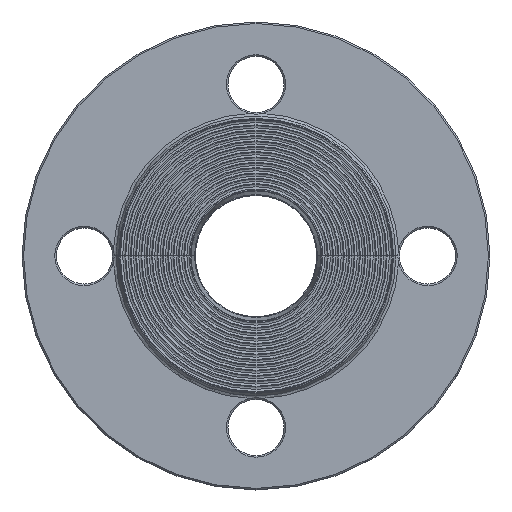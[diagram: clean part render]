
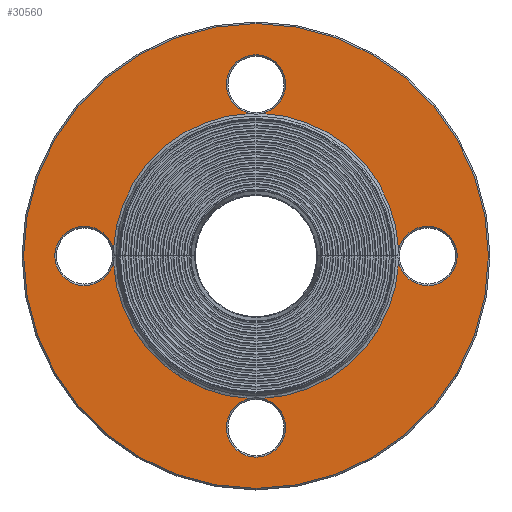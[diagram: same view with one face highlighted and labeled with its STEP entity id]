
A CAD part, top view. The second image highlights one B-rep face of the part: STEP entity #30560.
In plain terms, the highlighted planar face has unit normal (0, 0, 1).
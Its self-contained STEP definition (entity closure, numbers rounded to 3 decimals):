
#28220=CARTESIAN_POINT('',(119.5,165.,16.));
#28230=VERTEX_POINT('',#28220);
#28260=CARTESIAN_POINT('',(110.,165.,16.));
#28270=DIRECTION('',(0.,0.,1.));
#28280=DIRECTION('',(1.,0.,0.));
#28290=AXIS2_PLACEMENT_3D('',#28260,#28270,#28280);
#28300=CIRCLE('',#28290,9.5);
#28310=CARTESIAN_POINT('',(111.903,155.692,16.));
#28320=VERTEX_POINT('',#28310);
#28330=EDGE_CURVE('',#28320,#28230,#28300,.T.);
#29030=CARTESIAN_POINT('',(108.097,155.692,16.));
#29040=VERTEX_POINT('',#29030);
#29070=CARTESIAN_POINT('',(100.5,165.,16.));
#29080=VERTEX_POINT('',#29070);
#29090=EDGE_CURVE('',#29080,#29040,#28300,.T.);
#29240=EDGE_CURVE('',#28230,#29080,#28300,.T.);
#29690=CARTESIAN_POINT('',(190.069,110.,16.));
#29700=DIRECTION('',(-0.,0.,1.));
#29710=DIRECTION('',(1.,0.,0.));
#29720=AXIS2_PLACEMENT_3D('',#29690,#29700,#29710);
#29730=PLANE('',#29720);
#29740=CARTESIAN_POINT('',(110.,55.,16.));
#29750=DIRECTION('',(0.,0.,1.));
#29760=DIRECTION('',(1.,0.,0.));
#29770=AXIS2_PLACEMENT_3D('',#29740,#29750,#29760);
#29780=CIRCLE('',#29770,9.5);
#29790=CARTESIAN_POINT('',(108.097,64.308,16.));
#29800=VERTEX_POINT('',#29790);
#29810=CARTESIAN_POINT('',(100.5,55.,16.));
#29820=VERTEX_POINT('',#29810);
#29830=EDGE_CURVE('',#29800,#29820,#29780,.T.);
#29840=ORIENTED_EDGE('',*,*,#29830,.F.);
#29850=CARTESIAN_POINT('',(119.5,55.,16.));
#29860=VERTEX_POINT('',#29850);
#29870=EDGE_CURVE('',#29820,#29860,#29780,.T.);
#29880=ORIENTED_EDGE('',*,*,#29870,.F.);
#29890=CARTESIAN_POINT('',(111.903,64.308,16.));
#29900=VERTEX_POINT('',#29890);
#29910=EDGE_CURVE('',#29860,#29900,#29780,.T.);
#29920=ORIENTED_EDGE('',*,*,#29910,.F.);
#29930=CARTESIAN_POINT('',(110.,110.,16.));
#29940=DIRECTION('',(0.,0.,-1.));
#29950=DIRECTION('',(-1.,0.,0.));
#29960=AXIS2_PLACEMENT_3D('',#29930,#29940,#29950);
#29970=CIRCLE('',#29960,45.732);
#29980=CARTESIAN_POINT('',(155.692,108.097,16.));
#29990=VERTEX_POINT('',#29980);
#30000=EDGE_CURVE('',#29990,#29900,#29970,.T.);
#30010=ORIENTED_EDGE('',*,*,#30000,.T.);
#30020=CARTESIAN_POINT('',(165.,110.,16.));
#30030=DIRECTION('',(0.,0.,1.));
#30040=DIRECTION('',(1.,0.,0.));
#30050=AXIS2_PLACEMENT_3D('',#30020,#30030,#30040);
#30060=CIRCLE('',#30050,9.5);
#30070=CARTESIAN_POINT('',(174.5,110.,16.));
#30080=VERTEX_POINT('',#30070);
#30090=EDGE_CURVE('',#29990,#30080,#30060,.T.);
#30100=ORIENTED_EDGE('',*,*,#30090,.F.);
#30110=CARTESIAN_POINT('',(155.692,111.903,16.));
#30120=VERTEX_POINT('',#30110);
#30130=EDGE_CURVE('',#30080,#30120,#30060,.T.);
#30140=ORIENTED_EDGE('',*,*,#30130,.F.);
#30150=EDGE_CURVE('',#28320,#30120,#29970,.T.);
#30160=ORIENTED_EDGE('',*,*,#30150,.T.);
#30170=ORIENTED_EDGE('',*,*,#28330,.F.);
#30180=ORIENTED_EDGE('',*,*,#29240,.F.);
#30190=ORIENTED_EDGE('',*,*,#29090,.F.);
#30200=CARTESIAN_POINT('',(64.308,111.903,16.));
#30210=VERTEX_POINT('',#30200);
#30220=EDGE_CURVE('',#30210,#29040,#29970,.T.);
#30230=ORIENTED_EDGE('',*,*,#30220,.T.);
#30240=CARTESIAN_POINT('',(55.,110.,16.));
#30250=DIRECTION('',(0.,0.,1.));
#30260=DIRECTION('',(1.,0.,0.));
#30270=AXIS2_PLACEMENT_3D('',#30240,#30250,#30260);
#30280=CIRCLE('',#30270,9.5);
#30290=CARTESIAN_POINT('',(45.5,110.,16.));
#30300=VERTEX_POINT('',#30290);
#30310=EDGE_CURVE('',#30210,#30300,#30280,.T.);
#30320=ORIENTED_EDGE('',*,*,#30310,.F.);
#30330=CARTESIAN_POINT('',(64.308,108.097,16.));
#30340=VERTEX_POINT('',#30330);
#30350=EDGE_CURVE('',#30300,#30340,#30280,.T.);
#30360=ORIENTED_EDGE('',*,*,#30350,.F.);
#30370=EDGE_CURVE('',#29800,#30340,#29970,.T.);
#30380=ORIENTED_EDGE('',*,*,#30370,.T.);
#30390=EDGE_LOOP('',(#30380,#30360,#30320,#30230,#30190,#30180,#30170,
#30160,#30140,#30100,#30010,#29920,#29880,#29840));
#30400=FACE_BOUND('',#30390,.T.);
#30410=CARTESIAN_POINT('',(110.,110.,16.));
#30420=DIRECTION('',(0.,0.,1.));
#30430=DIRECTION('',(1.,0.,0.));
#30440=AXIS2_PLACEMENT_3D('',#30410,#30420,#30430);
#30450=CIRCLE('',#30440,74.5);
#30460=CARTESIAN_POINT('',(184.5,110.,16.));
#30470=VERTEX_POINT('',#30460);
#30480=CARTESIAN_POINT('',(35.5,110.,16.));
#30490=VERTEX_POINT('',#30480);
#30500=EDGE_CURVE('',#30470,#30490,#30450,.T.);
#30510=ORIENTED_EDGE('',*,*,#30500,.T.);
#30520=EDGE_CURVE('',#30490,#30470,#30450,.T.);
#30530=ORIENTED_EDGE('',*,*,#30520,.T.);
#30540=EDGE_LOOP('',(#30530,#30510));
#30550=FACE_OUTER_BOUND('',#30540,.T.);
#30560=ADVANCED_FACE('',(#30400,#30550),#29730,.T.);
